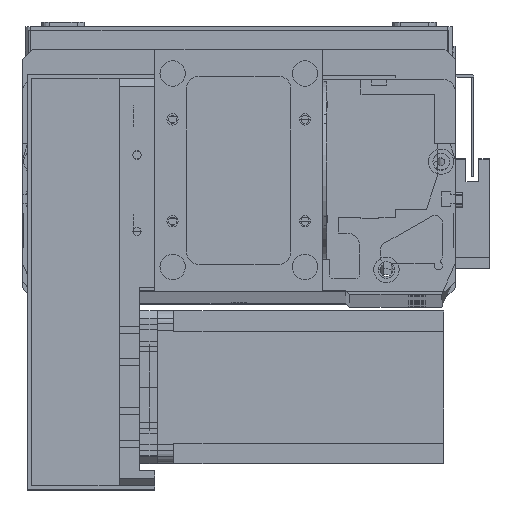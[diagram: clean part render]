
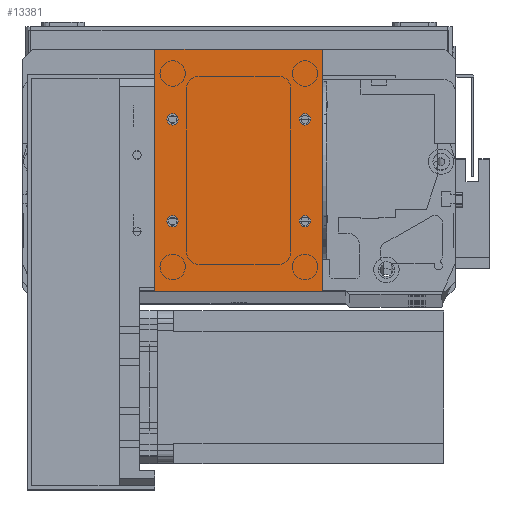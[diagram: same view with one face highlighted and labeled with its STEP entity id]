
A CAD part, top view. The second image highlights one B-rep face of the part: STEP entity #13381.
In plain terms, the highlighted planar face has unit normal (0, 0, 1).
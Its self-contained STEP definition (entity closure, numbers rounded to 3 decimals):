
#1013 = VERTEX_POINT ( 'NONE', #10382 ) ;
#1243 = DIRECTION ( 'NONE',  ( 1., 0., 0. ) ) ;
#1570 = AXIS2_PLACEMENT_3D ( 'NONE', #26580, #26698, #26805 ) ;
#1870 = CARTESIAN_POINT ( 'NONE',  ( 66., 0., 2. ) ) ;
#2472 = EDGE_CURVE ( 'NONE', #30025, #28321, #16559, .T. ) ;
#2506 = ORIENTED_EDGE ( 'NONE', *, *, #4764, .F. ) ;
#2827 = EDGE_CURVE ( 'NONE', #31809, #22077, #19026, .T. ) ;
#3278 = CARTESIAN_POINT ( 'NONE',  ( 4.75, 27.5, 2. ) ) ;
#4539 = AXIS2_PLACEMENT_3D ( 'NONE', #11047, #29571, #13815 ) ;
#4764 = EDGE_CURVE ( 'NONE', #13498, #15949, #4866, .T. ) ;
#4866 = CIRCLE ( 'NONE', #34141, 2.25 ) ;
#5045 = FACE_BOUND ( 'NONE', #19833, .T. ) ;
#5389 = CIRCLE ( 'NONE', #29543, 2.25 ) ;
#5744 = ORIENTED_EDGE ( 'NONE', *, *, #11453, .T. ) ;
#5910 = DIRECTION ( 'NONE',  ( 1., 0., 0. ) ) ;
#5977 = DIRECTION ( 'NONE',  ( 0., 0., 1. ) ) ;
#6021 = CARTESIAN_POINT ( 'NONE',  ( 0., 0., 2. ) ) ;
#6151 = CARTESIAN_POINT ( 'NONE',  ( 59., 27.5, 2. ) ) ;
#6404 = CARTESIAN_POINT ( 'NONE',  ( 66., 0., 2. ) ) ;
#6754 = EDGE_CURVE ( 'NONE', #31638, #22980, #23585, .T. ) ;
#6893 = VECTOR ( 'NONE', #18097, 1000. ) ;
#7070 = VERTEX_POINT ( 'NONE', #6021 ) ;
#7126 = ORIENTED_EDGE ( 'NONE', *, *, #16493, .T. ) ;
#7812 = AXIS2_PLACEMENT_3D ( 'NONE', #14839, #33139, #17538 ) ;
#8893 = DIRECTION ( 'NONE',  ( 0., 0., 1. ) ) ;
#9219 = CARTESIAN_POINT ( 'NONE',  ( 0., 0., 2. ) ) ;
#9681 = AXIS2_PLACEMENT_3D ( 'NONE', #18577, #18732, #18198 ) ;
#10382 = CARTESIAN_POINT ( 'NONE',  ( 0., 95., 2. ) ) ;
#11047 = CARTESIAN_POINT ( 'NONE',  ( 59., 27.5, 2. ) ) ;
#11453 = EDGE_CURVE ( 'NONE', #22077, #1013, #28126, .T. ) ;
#11787 = CARTESIAN_POINT ( 'NONE',  ( 7., 27.5, 2. ) ) ;
#11872 = VECTOR ( 'NONE', #18605, 1000. ) ;
#12062 = DIRECTION ( 'NONE',  ( -1., 0., 0. ) ) ;
#12693 = DIRECTION ( 'NONE',  ( 1., 0., 0. ) ) ;
#13125 = LINE ( 'NONE', #18098, #26394 ) ;
#13381 = ADVANCED_FACE ( 'NONE', ( #5045, #13936, #19374, #32376, #25540 ), #25318, .F. ) ;
#13498 = VERTEX_POINT ( 'NONE', #33544 ) ;
#13815 = DIRECTION ( 'NONE',  ( 1., 0., 0. ) ) ;
#13936 = FACE_BOUND ( 'NONE', #30244, .T. ) ;
#14003 = ORIENTED_EDGE ( 'NONE', *, *, #20101, .F. ) ;
#14540 = ORIENTED_EDGE ( 'NONE', *, *, #24651, .F. ) ;
#14541 = DIRECTION ( 'NONE',  ( 1., 0., 0. ) ) ;
#14666 = EDGE_CURVE ( 'NONE', #32976, #18182, #5389, .T. ) ;
#14693 = DIRECTION ( 'NONE',  ( 0., -1., 0. ) ) ;
#14738 = ORIENTED_EDGE ( 'NONE', *, *, #32205, .F. ) ;
#14839 = CARTESIAN_POINT ( 'NONE',  ( 7., 67.5, 2. ) ) ;
#15949 = VERTEX_POINT ( 'NONE', #26324 ) ;
#15986 = ORIENTED_EDGE ( 'NONE', *, *, #29533, .F. ) ;
#15989 = ORIENTED_EDGE ( 'NONE', *, *, #14666, .F. ) ;
#16493 = EDGE_CURVE ( 'NONE', #1013, #7070, #16666, .T. ) ;
#16559 = CIRCLE ( 'NONE', #1570, 2.25 ) ;
#16666 = LINE ( 'NONE', #22664, #29783 ) ;
#17534 = DIRECTION ( 'NONE',  ( 0., 0., 1. ) ) ;
#17538 = DIRECTION ( 'NONE',  ( 1., 0., 0. ) ) ;
#17790 = CARTESIAN_POINT ( 'NONE',  ( 0., 95., 2. ) ) ;
#17832 = EDGE_CURVE ( 'NONE', #7070, #31809, #13125, .T. ) ;
#17878 = ORIENTED_EDGE ( 'NONE', *, *, #17832, .T. ) ;
#18097 = DIRECTION ( 'NONE',  ( -1., 0., 0. ) ) ;
#18098 = CARTESIAN_POINT ( 'NONE',  ( 0., 0., 2. ) ) ;
#18182 = VERTEX_POINT ( 'NONE', #3278 ) ;
#18198 = DIRECTION ( 'NONE',  ( 1., 0., 0. ) ) ;
#18258 = AXIS2_PLACEMENT_3D ( 'NONE', #11787, #30279, #14541 ) ;
#18577 = CARTESIAN_POINT ( 'NONE',  ( 59., 67.5, 2. ) ) ;
#18605 = DIRECTION ( 'NONE',  ( 0., 1., 0. ) ) ;
#18732 = DIRECTION ( 'NONE',  ( 0., 0., 1. ) ) ;
#18833 = CIRCLE ( 'NONE', #18258, 2.25 ) ;
#18879 = CARTESIAN_POINT ( 'NONE',  ( 61.25, 67.5, 2. ) ) ;
#19026 = LINE ( 'NONE', #1870, #11872 ) ;
#19374 = FACE_BOUND ( 'NONE', #24603, .T. ) ;
#19389 = ORIENTED_EDGE ( 'NONE', *, *, #6754, .F. ) ;
#19833 = EDGE_LOOP ( 'NONE', ( #14540, #29133 ) ) ;
#20101 = EDGE_CURVE ( 'NONE', #18182, #32976, #18833, .T. ) ;
#21199 = CARTESIAN_POINT ( 'NONE',  ( 56.75, 67.5, 2. ) ) ;
#21500 = CARTESIAN_POINT ( 'NONE',  ( 9.25, 27.5, 2. ) ) ;
#22077 = VERTEX_POINT ( 'NONE', #27797 ) ;
#22664 = CARTESIAN_POINT ( 'NONE',  ( 0., 0., 2. ) ) ;
#22971 = EDGE_LOOP ( 'NONE', ( #15989, #14003 ) ) ;
#22980 = VERTEX_POINT ( 'NONE', #21199 ) ;
#23585 = CIRCLE ( 'NONE', #9681, 2.25 ) ;
#24603 = EDGE_LOOP ( 'NONE', ( #14738, #2506 ) ) ;
#24651 = EDGE_CURVE ( 'NONE', #28321, #30025, #30265, .T. ) ;
#24880 = CARTESIAN_POINT ( 'NONE',  ( 59., 67.5, 2. ) ) ;
#25065 = CARTESIAN_POINT ( 'NONE',  ( 4.75, 67.5, 2. ) ) ;
#25318 = PLANE ( 'NONE',  #31048 ) ;
#25540 = FACE_OUTER_BOUND ( 'NONE', #29224, .T. ) ;
#25774 = ORIENTED_EDGE ( 'NONE', *, *, #2827, .T. ) ;
#26324 = CARTESIAN_POINT ( 'NONE',  ( 61.25, 27.5, 2. ) ) ;
#26394 = VECTOR ( 'NONE', #12693, 1000. ) ;
#26580 = CARTESIAN_POINT ( 'NONE',  ( 7., 67.5, 2. ) ) ;
#26698 = DIRECTION ( 'NONE',  ( 0., 0., 1. ) ) ;
#26805 = DIRECTION ( 'NONE',  ( 1., 0., 0. ) ) ;
#27523 = DIRECTION ( 'NONE',  ( 1., 0., 0. ) ) ;
#27797 = CARTESIAN_POINT ( 'NONE',  ( 66., 95., 2. ) ) ;
#27954 = AXIS2_PLACEMENT_3D ( 'NONE', #24880, #8893, #27523 ) ;
#27962 = DIRECTION ( 'NONE',  ( 0., 0., -1. ) ) ;
#28126 = LINE ( 'NONE', #17790, #6893 ) ;
#28321 = VERTEX_POINT ( 'NONE', #32510 ) ;
#29133 = ORIENTED_EDGE ( 'NONE', *, *, #2472, .F. ) ;
#29224 = EDGE_LOOP ( 'NONE', ( #7126, #17878, #25774, #5744 ) ) ;
#29533 = EDGE_CURVE ( 'NONE', #22980, #31638, #32748, .T. ) ;
#29543 = AXIS2_PLACEMENT_3D ( 'NONE', #33135, #17534, #1243 ) ;
#29571 = DIRECTION ( 'NONE',  ( 0., 0., 1. ) ) ;
#29783 = VECTOR ( 'NONE', #14693, 1000. ) ;
#30025 = VERTEX_POINT ( 'NONE', #25065 ) ;
#30244 = EDGE_LOOP ( 'NONE', ( #19389, #15986 ) ) ;
#30265 = CIRCLE ( 'NONE', #7812, 2.25 ) ;
#30279 = DIRECTION ( 'NONE',  ( 0., 0., 1. ) ) ;
#30591 = CIRCLE ( 'NONE', #4539, 2.25 ) ;
#31048 = AXIS2_PLACEMENT_3D ( 'NONE', #9219, #27962, #12062 ) ;
#31638 = VERTEX_POINT ( 'NONE', #18879 ) ;
#31809 = VERTEX_POINT ( 'NONE', #6404 ) ;
#32205 = EDGE_CURVE ( 'NONE', #15949, #13498, #30591, .T. ) ;
#32376 = FACE_BOUND ( 'NONE', #22971, .T. ) ;
#32510 = CARTESIAN_POINT ( 'NONE',  ( 9.25, 67.5, 2. ) ) ;
#32748 = CIRCLE ( 'NONE', #27954, 2.25 ) ;
#32976 = VERTEX_POINT ( 'NONE', #21500 ) ;
#33135 = CARTESIAN_POINT ( 'NONE',  ( 7., 27.5, 2. ) ) ;
#33139 = DIRECTION ( 'NONE',  ( 0., 0., 1. ) ) ;
#33544 = CARTESIAN_POINT ( 'NONE',  ( 56.75, 27.5, 2. ) ) ;
#34141 = AXIS2_PLACEMENT_3D ( 'NONE', #6151, #5977, #5910 ) ;
